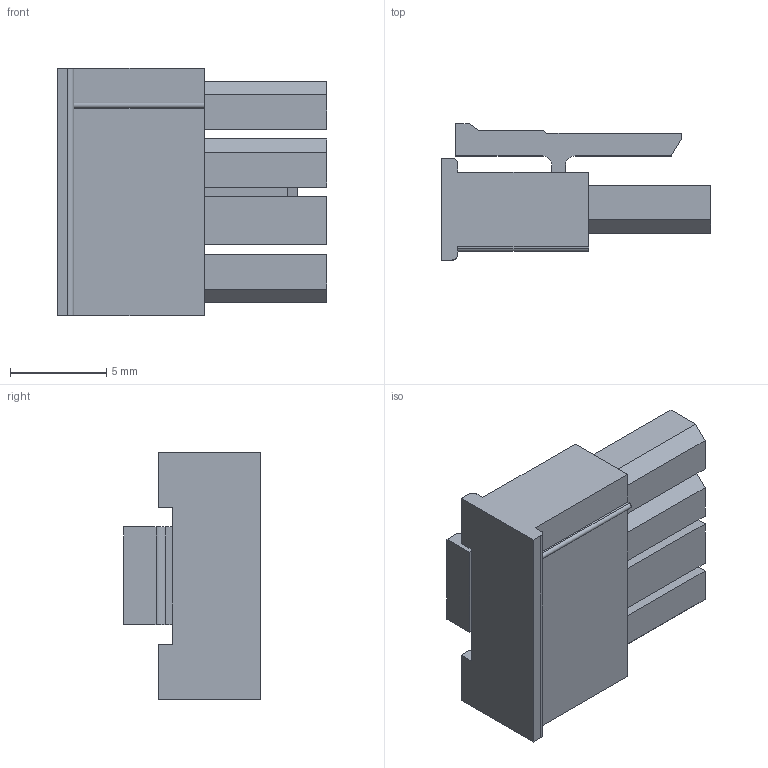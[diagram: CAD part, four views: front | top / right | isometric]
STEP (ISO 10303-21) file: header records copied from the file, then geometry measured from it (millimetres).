
FILE_DESCRIPTION(/* description */ ('VariCAD 2008 3.04 AP-203'),/* implementation_level */ '2;1');
FILE_NAME(/* name */ '0353-01-10',/* time_stamp */ '2009-04-29T21:34:32-06:00',/* author */ (''),/* organization */ (''),/* preprocessor_version */ 'ST-DEVELOPER v12',/* originating_system */ 'VariCAD 2008 3.04; kernel version (20080715)',/* authorisation */ '');
FILE_SCHEMA (('CONFIG_CONTROL_DESIGN'));
Length unit declared in the file: millimetre
Products named in the file (1): Part
Bounding box: 14 x 7.1 x 12.85 mm (x, y, z)
Volume: 528.8 mm3; surface area: 984.7 mm2
Topology: 1 solids, 1 shells, 120 faces, 327 edges, 218 vertices
Faces by surface type: plane 114, cylinder 6
Entity records: 3769 total; most frequent: CARTESIAN_POINT 667, ORIENTED_EDGE 654, DIRECTION 583, EDGE_CURVE 327, LINE 315, VECTOR 315, VERTEX_POINT 218, AXIS2_PLACEMENT_3D 134
